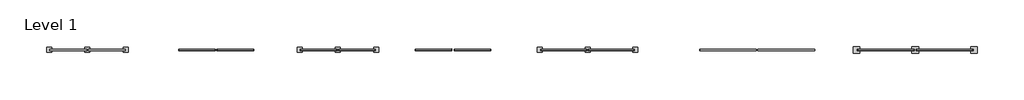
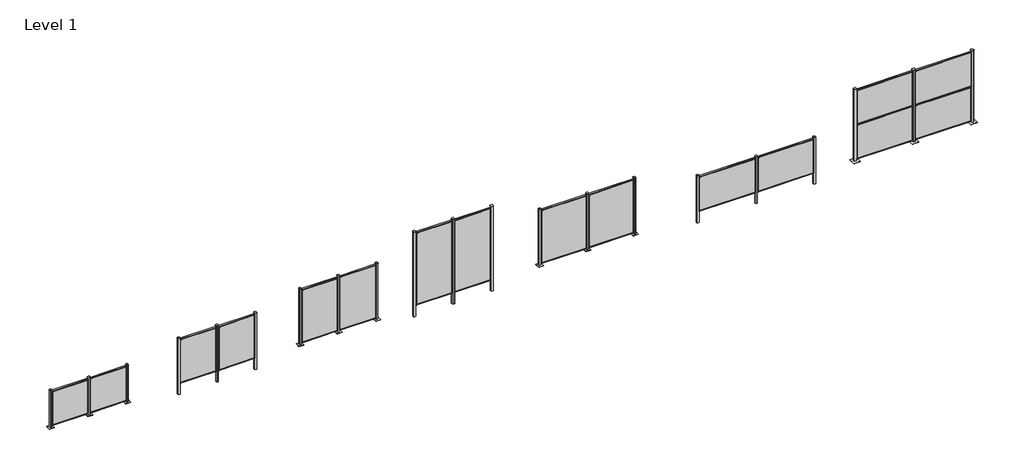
# One storey: 7 proxies.
"""IFC4 building model written with IfcOpenShell, lengths in millimetres."""

from ifc_helpers import new_model, si_unit, origin, place, context, project, spatial, transform, mapped, element, save
from components import specialty_equipment_0be25000, specialty_equipment_10af8dc8, specialty_equipment_32700f90, specialty_equipment_7ffc2057, specialty_equipment_cd4caa7f, specialty_equipment_3f2b97c9, specialty_equipment_d36daebb

model = new_model("IFC4")

# Units and contexts
model_context = context("Model", 3, world=origin())
ifc_project = project(units=[si_unit("LENGTHUNIT", "METRE", prefix="MILLI")], contexts=[model_context])

# Site, building, storey
site = spatial("IfcSite", under=ifc_project)
building = spatial("IfcBuilding", under=site)
storey = spatial("IfcBuildingStorey", under=building, Name="Level 1", Elevation=0.0)

# Proxies
placement = place(None, origin())
specialty_equipment_shape = specialty_equipment_0be25000(model_context)
element("IfcBuildingElementProxy", 1, Name="VIVA-Railings_Special-Equipment_Architectural-Fence-&-Landscape-Screens : 44” x 44” - Aluminum 1/8''", ObjectType="VIVA-Railings_Special-Equipment_Architectural-Fence-&-Landscape-Screens : 44” x 44” - Aluminum 1/8''", at=placement, inside=storey, context=model_context, shape_type="MappedRepresentation", body=[
    mapped(specialty_equipment_shape, transform((-14558.5053084, -14601.160209, 0.0), x_axis=(1.0, 0.0, 0.0), y_axis=(0.0, 1.0, 0.0), z_axis=(0.0, 0.0, 1.0))),
])
specialty_equipment_2_shape = specialty_equipment_10af8dc8(model_context)
element("IfcBuildingElementProxy", 2, Name="VIVA-Railings_Special-Equipment_Architectural-Fence-&-Landscape-Screens : 44” x 56” - Stainless Steel 0.078''", ObjectType="VIVA-Railings_Special-Equipment_Architectural-Fence-&-Landscape-Screens : 44” x 56” - Stainless Steel 0.078''", at=placement, inside=storey, context=model_context, shape_type="MappedRepresentation", body=[
    mapped(specialty_equipment_2_shape, transform((-10596.1053084, -14601.160209, 0.0), x_axis=(1.0, 0.0, 0.0), y_axis=(0.0, 1.0, 0.0), z_axis=(0.0, 0.0, 1.0))),
])
specialty_equipment_3_shape = specialty_equipment_32700f90(model_context)
element("IfcBuildingElementProxy", 3, Name="VIVA-Railings_Special-Equipment_Architectural-Fence-&-Landscape-Screens : 44” x 68” - Aluminum 1/8''", ObjectType="VIVA-Railings_Special-Equipment_Architectural-Fence-&-Landscape-Screens : 44” x 68” - Aluminum 1/8''", at=placement, inside=storey, context=model_context, shape_type="MappedRepresentation", body=[
    mapped(specialty_equipment_3_shape, transform((-6938.5053084, -14601.160209, 0.0), x_axis=(1.0, 0.0, 0.0), y_axis=(0.0, 1.0, 0.0), z_axis=(0.0, 0.0, 1.0))),
])
specialty_equipment_4_shape = specialty_equipment_7ffc2057(model_context)
element("IfcBuildingElementProxy", 4, Name="VIVA-Railings_Special-Equipment_Architectural-Fence-&-Landscape-Screens : 44” x 92” - Steel 0.078''", ObjectType="VIVA-Railings_Special-Equipment_Architectural-Fence-&-Landscape-Screens : 44” x 92” - Steel 0.078''", at=placement, inside=storey, context=model_context, shape_type="MappedRepresentation", body=[
    mapped(specialty_equipment_4_shape, transform((-3407.9053084, -14601.160209, 0.0), x_axis=(1.0, 0.0, 0.0), y_axis=(0.0, 1.0, 0.0), z_axis=(0.0, 0.0, 1.0))),
])
specialty_equipment_5_shape = specialty_equipment_cd4caa7f(model_context)
element("IfcBuildingElementProxy", 5, Name="VIVA-Railings_Special-Equipment_Architectural-Fence-&-Landscape-Screens : 55” x 68” - Stainless Steel 0.078''", ObjectType="VIVA-Railings_Special-Equipment_Architectural-Fence-&-Landscape-Screens : 55” x 68” - Stainless Steel 0.078''", at=placement, inside=storey, context=model_context, shape_type="MappedRepresentation", body=[
    mapped(specialty_equipment_5_shape, transform((376.6946916, -14601.160209, 0.0), x_axis=(1.0, 0.0, 0.0), y_axis=(0.0, 1.0, 0.0), z_axis=(0.0, 0.0, 1.0))),
])
specialty_equipment_6_shape = specialty_equipment_3f2b97c9(model_context)
element("IfcBuildingElementProxy", 6, Name="VIVA-Railings_Special-Equipment_Architectural-Fence-&-Landscape-Screens : 68” x 44” - Steel 0.078''", ObjectType="VIVA-Railings_Special-Equipment_Architectural-Fence-&-Landscape-Screens : 68” x 44” - Steel 0.078''", at=placement, inside=storey, context=model_context, shape_type="MappedRepresentation", body=[
    mapped(specialty_equipment_6_shape, transform((5253.4946916, -14601.160209, 0.0), x_axis=(1.0, 0.0, 0.0), y_axis=(0.0, 1.0, 0.0), z_axis=(0.0, 0.0, 1.0))),
])
specialty_equipment_7_shape = specialty_equipment_d36daebb(model_context)
element("IfcBuildingElementProxy", 7, Name="VIVA-Railings_Special-Equipment_Architectural-Fence-&-Landscape-Screens : 68” x 88” - Aluminum 1/8''", ObjectType="VIVA-Railings_Special-Equipment_Architectural-Fence-&-Landscape-Screens : 68” x 88” - Aluminum 1/8''", at=placement, inside=storey, context=model_context, shape_type="MappedRepresentation", body=[
    mapped(specialty_equipment_7_shape, transform((9977.8946916, -14601.160209, 0.0), x_axis=(1.0, 0.0, 0.0), y_axis=(0.0, 1.0, 0.0), z_axis=(0.0, 0.0, 1.0))),
])

save(model, "model.ifc")
